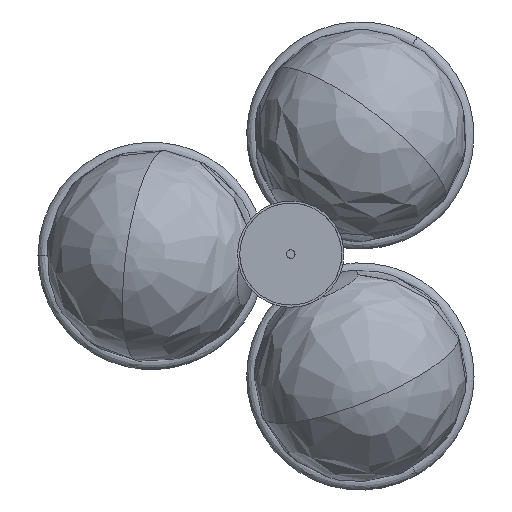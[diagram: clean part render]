
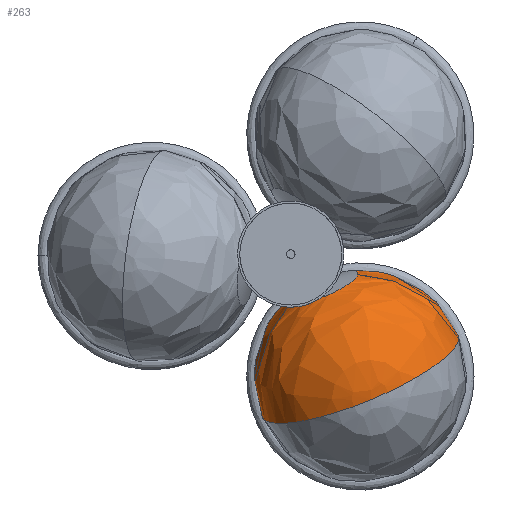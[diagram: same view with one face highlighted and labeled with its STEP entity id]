
A CAD part, top view. The second image highlights one B-rep face of the part: STEP entity #263.
In plain terms, the highlighted free-form (B-spline) face has degree [2, 2] with [5, 5] control points.
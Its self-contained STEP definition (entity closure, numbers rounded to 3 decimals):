
#52=(
BOUNDED_SURFACE()
B_SPLINE_SURFACE(2,2,((#4321,#4322,#4323,#4324,#4325),(#4326,#4327,#4328,
#4329,#4330),(#4331,#4332,#4333,#4334,#4335),(#4336,#4337,#4338,#4339,#4340),
(#4341,#4342,#4343,#4344,#4345)),.UNSPECIFIED.,.F.,.F.,.F.)
B_SPLINE_SURFACE_WITH_KNOTS((3,2,3),(3,2,3),(314.159,471.239,
628.319),(320.159,477.239,634.319),
 .UNSPECIFIED.)
GEOMETRIC_REPRESENTATION_ITEM()
RATIONAL_B_SPLINE_SURFACE(((1.,0.707,1.,0.707,1.),
(0.707,0.5,0.707,0.5,0.707),(1.,0.707,
1.,0.707,1.),(0.707,0.5,0.707,0.5,0.707),
(1.,0.707,1.,0.707,1.)))
REPRESENTATION_ITEM('')
SURFACE()
);
#206=FACE_BOUND('',#569,.T.);
#263=ADVANCED_FACE('',(#413,#206),#52,.T.);
#413=FACE_OUTER_BOUND('',#568,.T.);
#568=EDGE_LOOP('',(#859,#860));
#569=EDGE_LOOP('',(#861));
#859=ORIENTED_EDGE('',*,*,#1371,.T.);
#860=ORIENTED_EDGE('',*,*,#1373,.F.);
#861=ORIENTED_EDGE('',*,*,#1372,.F.);
#1371=EDGE_CURVE('',#1850,#1851,#1667,.T.);
#1372=EDGE_CURVE('',#1852,#1852,#1668,.T.);
#1373=EDGE_CURVE('',#1850,#1851,#1669,.T.);
#1667=(
BOUNDED_CURVE()
B_SPLINE_CURVE(2,(#4349,#4350,#4351,#4352,#4353),.UNSPECIFIED.,.F.,.F.)
B_SPLINE_CURVE_WITH_KNOTS((3,2,3),(320.159,477.239,634.319),
 .UNSPECIFIED.)
CURVE()
GEOMETRIC_REPRESENTATION_ITEM()
RATIONAL_B_SPLINE_CURVE((1.,0.707,1.,0.707,1.))
REPRESENTATION_ITEM('')
);
#1668=(
BOUNDED_CURVE()
B_SPLINE_CURVE(2,(#4354,#4355,#4356,#4357,#4358,#4359,#4360,#4361,#4362),
 .UNSPECIFIED.,.T.,.F.)
B_SPLINE_CURVE_WITH_KNOTS((3,2,2,2,3),(0.,54.978,109.956,
164.934,219.911),.UNSPECIFIED.)
CURVE()
GEOMETRIC_REPRESENTATION_ITEM()
RATIONAL_B_SPLINE_CURVE((1.,0.707,1.,0.707,1.,0.707,
1.,0.707,1.))
REPRESENTATION_ITEM('')
);
#1669=(
BOUNDED_CURVE()
B_SPLINE_CURVE(2,(#4363,#4364,#4365,#4366,#4367),.UNSPECIFIED.,.F.,.F.)
B_SPLINE_CURVE_WITH_KNOTS((3,2,3),(320.159,477.239,634.319),
 .UNSPECIFIED.)
CURVE()
GEOMETRIC_REPRESENTATION_ITEM()
RATIONAL_B_SPLINE_CURVE((1.,0.707,1.,0.707,1.))
REPRESENTATION_ITEM('')
);
#1850=VERTEX_POINT('',#4346);
#1851=VERTEX_POINT('',#4347);
#1852=VERTEX_POINT('',#4348);
#4321=CARTESIAN_POINT('',(75.772,-543.691,144.013));
#4322=CARTESIAN_POINT('',(-16.511,-582.197,145.065));
#4323=CARTESIAN_POINT('',(-26.783,-560.227,48.051));
#4324=CARTESIAN_POINT('',(-37.056,-538.257,-48.964));
#4325=CARTESIAN_POINT('',(55.227,-499.752,-50.016));
#4326=CARTESIAN_POINT('',(75.772,-543.691,144.013));
#4327=CARTESIAN_POINT('',(-53.636,-492.56,169.295));
#4328=CARTESIAN_POINT('',(-63.908,-470.591,72.28));
#4329=CARTESIAN_POINT('',(-74.181,-448.621,-24.734));
#4330=CARTESIAN_POINT('',(55.227,-499.752,-50.016));
#4331=CARTESIAN_POINT('',(75.772,-543.691,144.013));
#4332=CARTESIAN_POINT('',(38.648,-454.055,168.243));
#4333=CARTESIAN_POINT('',(28.375,-432.085,71.229));
#4334=CARTESIAN_POINT('',(18.103,-410.116,-25.786));
#4335=CARTESIAN_POINT('',(55.227,-499.752,-50.016));
#4336=CARTESIAN_POINT('',(75.772,-543.691,144.013));
#4337=CARTESIAN_POINT('',(130.931,-415.55,167.191));
#4338=CARTESIAN_POINT('',(120.659,-393.58,70.177));
#4339=CARTESIAN_POINT('',(110.386,-371.61,-26.838));
#4340=CARTESIAN_POINT('',(55.227,-499.752,-50.016));
#4341=CARTESIAN_POINT('',(75.772,-543.691,144.013));
#4342=CARTESIAN_POINT('',(168.056,-505.186,142.962));
#4343=CARTESIAN_POINT('',(157.783,-483.216,45.947));
#4344=CARTESIAN_POINT('',(147.511,-461.247,-51.067));
#4345=CARTESIAN_POINT('',(55.227,-499.752,-50.016));
#4346=CARTESIAN_POINT('',(75.772,-543.691,144.013));
#4347=CARTESIAN_POINT('',(55.227,-499.752,-50.016));
#4348=CARTESIAN_POINT('',(27.128,-430.066,35.741));
#4349=CARTESIAN_POINT('',(75.772,-543.691,144.013));
#4350=CARTESIAN_POINT('',(168.056,-505.186,142.962));
#4351=CARTESIAN_POINT('',(157.783,-483.216,45.947));
#4352=CARTESIAN_POINT('',(147.511,-461.247,-51.067));
#4353=CARTESIAN_POINT('',(55.227,-499.752,-50.016));
#4354=CARTESIAN_POINT('',(27.128,-430.066,35.741));
#4355=CARTESIAN_POINT('',(-5.171,-443.542,36.109));
#4356=CARTESIAN_POINT('',(-1.576,-451.232,70.064));
#4357=CARTESIAN_POINT('',(2.02,-458.921,104.019));
#4358=CARTESIAN_POINT('',(34.319,-445.444,103.651));
#4359=CARTESIAN_POINT('',(66.618,-431.967,103.283));
#4360=CARTESIAN_POINT('',(63.023,-424.278,69.328));
#4361=CARTESIAN_POINT('',(59.427,-416.589,35.373));
#4362=CARTESIAN_POINT('',(27.128,-430.066,35.741));
#4363=CARTESIAN_POINT('',(75.772,-543.691,144.013));
#4364=CARTESIAN_POINT('',(-16.511,-582.197,145.065));
#4365=CARTESIAN_POINT('',(-26.783,-560.227,48.051));
#4366=CARTESIAN_POINT('',(-37.056,-538.257,-48.964));
#4367=CARTESIAN_POINT('',(55.227,-499.752,-50.016));
